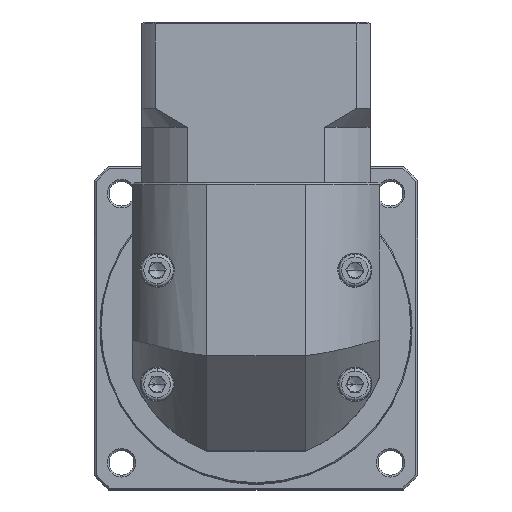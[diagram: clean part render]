
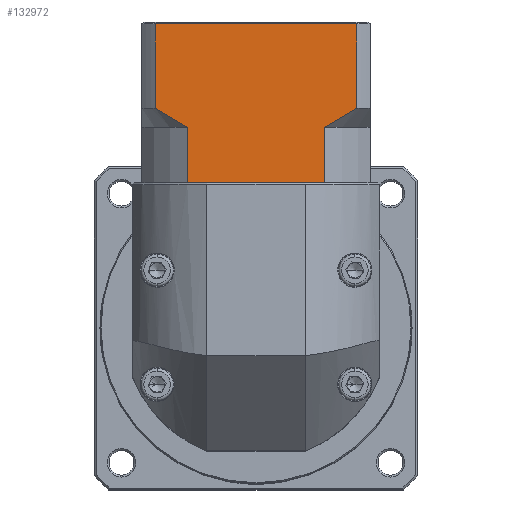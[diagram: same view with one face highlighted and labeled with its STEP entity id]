
A CAD part, top view. The second image highlights one B-rep face of the part: STEP entity #132972.
In plain terms, the highlighted planar face has unit normal (0, 0, 1).
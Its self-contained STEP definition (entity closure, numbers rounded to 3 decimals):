
#154 = CARTESIAN_POINT ( 'NONE',  ( -34.578, 103.763, 36.617 ) ) ;
#1005 = CARTESIAN_POINT ( 'NONE',  ( -79.063, 103.763, 36.617 ) ) ;
#1368 = CARTESIAN_POINT ( 'NONE',  ( -78.072, 89.263, 36.617 ) ) ;
#2792 = EDGE_CURVE ( 'NONE', #131663, #29447, #93960, .T. ) ;
#3397 = VERTEX_POINT ( 'NONE', #30090 ) ;
#3797 = CARTESIAN_POINT ( 'NONE',  ( -87.493, 103.763, 36.617 ) ) ;
#5036 = VERTEX_POINT ( 'NONE', #64183 ) ;
#5538 = CARTESIAN_POINT ( 'NONE',  ( -87.493, 108.763, 36.617 ) ) ;
#5591 = EDGE_CURVE ( 'NONE', #5036, #27428, #21408, .T. ) ;
#12489 = VERTEX_POINT ( 'NONE', #59758 ) ;
#13436 = EDGE_CURVE ( 'NONE', #111137, #42631, #88769, .T. ) ;
#13547 = DIRECTION ( 'NONE',  ( -1., 0., 0. ) ) ;
#14034 = DIRECTION ( 'NONE',  ( 0., 1., 0. ) ) ;
#14964 = ORIENTED_EDGE ( 'NONE', *, *, #117460, .T. ) ;
#15220 = CARTESIAN_POINT ( 'NONE',  ( -40.126, 105.314, 36.617 ) ) ;
#20374 = CARTESIAN_POINT ( 'NONE',  ( -91.036, 89.263, 36.617 ) ) ;
#21408 = LINE ( 'NONE', #104707, #129187 ) ;
#22590 = CARTESIAN_POINT ( 'NONE',  ( -43.008, 89.263, 36.617 ) ) ;
#22766 = DIRECTION ( 'NONE',  ( 0., -1., 0. ) ) ;
#25640 = CARTESIAN_POINT ( 'NONE',  ( -35.941, 107.862, 36.617 ) ) ;
#26739 = ORIENTED_EDGE ( 'NONE', *, *, #95652, .F. ) ;
#27428 = VERTEX_POINT ( 'NONE', #105811 ) ;
#28806 = EDGE_CURVE ( 'NONE', #111137, #27428, #72076, .T. ) ;
#29372 = CARTESIAN_POINT ( 'NONE',  ( -87.493, 108.763, 36.617 ) ) ;
#29447 = VERTEX_POINT ( 'NONE', #22590 ) ;
#30090 = CARTESIAN_POINT ( 'NONE',  ( -34.578, 108.763, 36.617 ) ) ;
#36981 = LINE ( 'NONE', #107393, #69530 ) ;
#36995 = CARTESIAN_POINT ( 'NONE',  ( -41.551, 104.514, 36.617 ) ) ;
#37591 = CARTESIAN_POINT ( 'NONE',  ( -43.008, 103.763, 36.617 ) ) ;
#42631 = VERTEX_POINT ( 'NONE', #80134 ) ;
#42835 = EDGE_LOOP ( 'NONE', ( #130206, #131528, #56716, #69954, #26739, #104653, #14964, #97859, #134121, #72292 ) ) ;
#43056 = VECTOR ( 'NONE', #123980, 1000. ) ;
#44231 = VECTOR ( 'NONE', #56545, 1000. ) ;
#46436 = EDGE_CURVE ( 'NONE', #12489, #105765, #36981, .T. ) ;
#47496 = CARTESIAN_POINT ( 'NONE',  ( -37.321, 106.988, 36.617 ) ) ;
#49343 = VECTOR ( 'NONE', #51566, 1000. ) ;
#51157 = CARTESIAN_POINT ( 'NONE',  ( -84.755, 106.991, 36.617 ) ) ;
#51566 = DIRECTION ( 'NONE',  ( 0., -1., 0. ) ) ;
#55841 = DIRECTION ( 'NONE',  ( 1., 0., 0. ) ) ;
#56545 = DIRECTION ( 'NONE',  ( 0., 1., 0. ) ) ;
#56716 = ORIENTED_EDGE ( 'NONE', *, *, #28806, .F. ) ;
#59175 = LINE ( 'NONE', #154, #49343 ) ;
#59758 = CARTESIAN_POINT ( 'NONE',  ( -79.063, 89.263, 36.617 ) ) ;
#64183 = CARTESIAN_POINT ( 'NONE',  ( -34.578, 130.963, 36.617 ) ) ;
#64677 = CARTESIAN_POINT ( 'NONE',  ( -43.008, 103.763, 36.617 ) ) ;
#65528 = DIRECTION ( 'NONE',  ( 0., 0., -1. ) ) ;
#68584 = LINE ( 'NONE', #1005, #119220 ) ;
#69530 = VECTOR ( 'NONE', #116611, 1000. ) ;
#69954 = ORIENTED_EDGE ( 'NONE', *, *, #13436, .T. ) ;
#70106 = VECTOR ( 'NONE', #22766, 1000. ) ;
#72076 = LINE ( 'NONE', #3797, #44231 ) ;
#72292 = ORIENTED_EDGE ( 'NONE', *, *, #88817, .T. ) ;
#73892 = DIRECTION ( 'NONE',  ( 0., 1., 0. ) ) ;
#77624 = CARTESIAN_POINT ( 'NONE',  ( -43.008, 103.763, 36.617 ) ) ;
#78963 = LINE ( 'NONE', #20374, #43056 ) ;
#80134 = CARTESIAN_POINT ( 'NONE',  ( -79.063, 103.763, 36.617 ) ) ;
#83094 = CARTESIAN_POINT ( 'NONE',  ( -86.133, 107.864, 36.617 ) ) ;
#84143 = VECTOR ( 'NONE', #55841, 1000. ) ;
#87822 = EDGE_CURVE ( 'NONE', #5036, #3397, #59175, .T. ) ;
#88769 = B_SPLINE_CURVE_WITH_KNOTS ( 'NONE', 3,
 ( #29372, #83094, #51157, #113685, #92677, #123863 ),
 .UNSPECIFIED., .F., .F.,
 ( 4, 2, 4 ),
 ( 0.052, 0.057, 0.062 ),
 .UNSPECIFIED. ) ;
#88817 = EDGE_CURVE ( 'NONE', #94039, #3397, #117782, .T. ) ;
#92677 = CARTESIAN_POINT ( 'NONE',  ( -80.515, 104.511, 36.617 ) ) ;
#93115 = CARTESIAN_POINT ( 'NONE',  ( -43.999, 89.263, 36.617 ) ) ;
#93625 = AXIS2_PLACEMENT_3D ( 'NONE', #108774, #65528, #14034 ) ;
#93960 = LINE ( 'NONE', #118856, #84143 ) ;
#94039 = VERTEX_POINT ( 'NONE', #37591 ) ;
#95652 = EDGE_CURVE ( 'NONE', #12489, #42631, #68584, .T. ) ;
#97859 = ORIENTED_EDGE ( 'NONE', *, *, #2792, .T. ) ;
#98595 = CARTESIAN_POINT ( 'NONE',  ( -34.578, 108.763, 36.617 ) ) ;
#104653 = ORIENTED_EDGE ( 'NONE', *, *, #46436, .T. ) ;
#104707 = CARTESIAN_POINT ( 'NONE',  ( -91.036, 130.963, 36.617 ) ) ;
#105765 = VERTEX_POINT ( 'NONE', #1368 ) ;
#105811 = CARTESIAN_POINT ( 'NONE',  ( -87.493, 130.963, 36.617 ) ) ;
#107393 = CARTESIAN_POINT ( 'NONE',  ( -91.036, 89.263, 36.617 ) ) ;
#108774 = CARTESIAN_POINT ( 'NONE',  ( -91.036, 131.463, 36.617 ) ) ;
#111137 = VERTEX_POINT ( 'NONE', #5538 ) ;
#113685 = CARTESIAN_POINT ( 'NONE',  ( -81.947, 105.315, 36.617 ) ) ;
#116611 = DIRECTION ( 'NONE',  ( 1., 0., 0. ) ) ;
#117460 = EDGE_CURVE ( 'NONE', #105765, #131663, #78963, .T. ) ;
#117782 = B_SPLINE_CURVE_WITH_KNOTS ( 'NONE', 3,
 ( #77624, #36995, #15220, #47496, #25640, #98595 ),
 .UNSPECIFIED., .F., .F.,
 ( 4, 2, 4 ),
 ( 0.1, 0.104, 0.109 ),
 .UNSPECIFIED. ) ;
#118856 = CARTESIAN_POINT ( 'NONE',  ( -91.036, 89.263, 36.617 ) ) ;
#119220 = VECTOR ( 'NONE', #73892, 1000. ) ;
#121113 = FACE_OUTER_BOUND ( 'NONE', #42835, .T. ) ;
#123795 = EDGE_CURVE ( 'NONE', #94039, #29447, #130637, .T. ) ;
#123863 = CARTESIAN_POINT ( 'NONE',  ( -79.063, 103.763, 36.617 ) ) ;
#123980 = DIRECTION ( 'NONE',  ( 1., 0., 0. ) ) ;
#126318 = PLANE ( 'NONE',  #93625 ) ;
#129187 = VECTOR ( 'NONE', #13547, 1000. ) ;
#130206 = ORIENTED_EDGE ( 'NONE', *, *, #87822, .F. ) ;
#130637 = LINE ( 'NONE', #64677, #70106 ) ;
#131528 = ORIENTED_EDGE ( 'NONE', *, *, #5591, .T. ) ;
#131663 = VERTEX_POINT ( 'NONE', #93115 ) ;
#132972 = ADVANCED_FACE ( 'NONE', ( #121113 ), #126318, .F. ) ;
#134121 = ORIENTED_EDGE ( 'NONE', *, *, #123795, .F. ) ;
